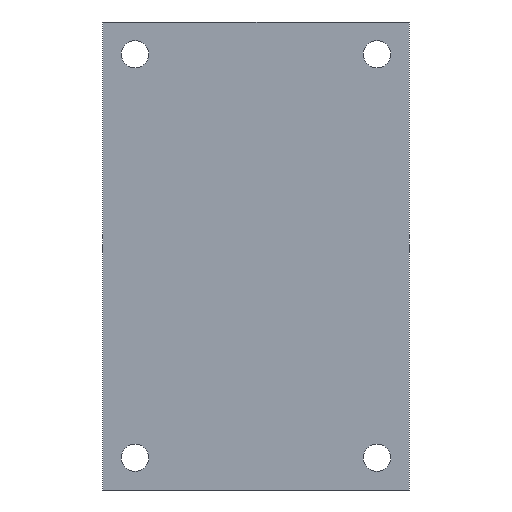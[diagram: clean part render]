
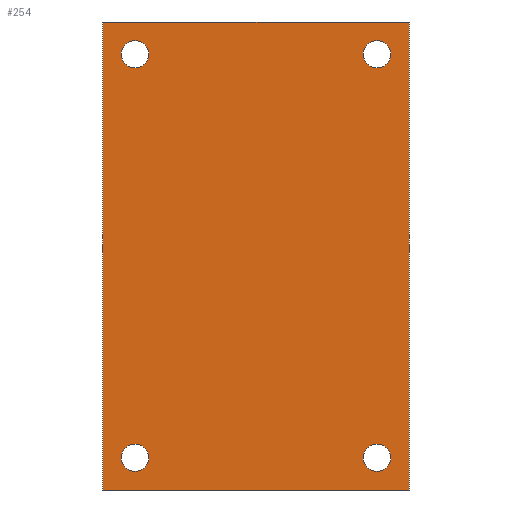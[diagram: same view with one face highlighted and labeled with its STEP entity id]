
A CAD part, front view. The second image highlights one B-rep face of the part: STEP entity #254.
In plain terms, the highlighted planar face has unit normal (0, -1, 0).
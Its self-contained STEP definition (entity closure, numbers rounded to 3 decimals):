
#19=FACE_BOUND('',#65,.T.);
#20=FACE_BOUND('',#66,.T.);
#21=FACE_BOUND('',#67,.T.);
#22=FACE_BOUND('',#68,.T.);
#28=PLANE('',#303);
#46=FACE_OUTER_BOUND('',#64,.T.);
#64=EDGE_LOOP('',(#229,#230,#231,#232));
#65=EDGE_LOOP('',(#233));
#66=EDGE_LOOP('',(#234));
#67=EDGE_LOOP('',(#235));
#68=EDGE_LOOP('',(#236));
#77=LINE('',#422,#97);
#81=LINE('',#430,#101);
#84=LINE('',#436,#104);
#87=LINE('',#441,#107);
#97=VECTOR('',#356,10.);
#101=VECTOR('',#362,10.);
#104=VECTOR('',#367,10.);
#107=VECTOR('',#372,10.);
#111=CIRCLE('',#282,1.7);
#114=CIRCLE('',#287,1.7);
#117=CIRCLE('',#292,1.7);
#120=CIRCLE('',#297,1.7);
#123=VERTEX_POINT('',#386);
#126=VERTEX_POINT('',#396);
#129=VERTEX_POINT('',#406);
#132=VERTEX_POINT('',#416);
#133=VERTEX_POINT('',#420);
#134=VERTEX_POINT('',#421);
#137=VERTEX_POINT('',#429);
#139=VERTEX_POINT('',#435);
#144=EDGE_CURVE('',#123,#123,#111,.T.);
#149=EDGE_CURVE('',#126,#126,#114,.T.);
#154=EDGE_CURVE('',#129,#129,#117,.T.);
#159=EDGE_CURVE('',#132,#132,#120,.T.);
#161=EDGE_CURVE('',#133,#134,#77,.T.);
#165=EDGE_CURVE('',#137,#133,#81,.T.);
#168=EDGE_CURVE('',#139,#137,#84,.T.);
#171=EDGE_CURVE('',#134,#139,#87,.T.);
#229=ORIENTED_EDGE('',*,*,#171,.F.);
#230=ORIENTED_EDGE('',*,*,#161,.F.);
#231=ORIENTED_EDGE('',*,*,#165,.F.);
#232=ORIENTED_EDGE('',*,*,#168,.F.);
#233=ORIENTED_EDGE('',*,*,#144,.T.);
#234=ORIENTED_EDGE('',*,*,#149,.T.);
#235=ORIENTED_EDGE('',*,*,#154,.T.);
#236=ORIENTED_EDGE('',*,*,#159,.T.);
#254=ADVANCED_FACE('',(#46,#19,#20,#21,#22),#28,.F.);
#282=AXIS2_PLACEMENT_3D('',#387,#315,#316);
#287=AXIS2_PLACEMENT_3D('',#397,#327,#328);
#292=AXIS2_PLACEMENT_3D('',#407,#339,#340);
#297=AXIS2_PLACEMENT_3D('',#417,#351,#352);
#303=AXIS2_PLACEMENT_3D('',#444,#376,#377);
#315=DIRECTION('center_axis',(0.,1.,0.));
#316=DIRECTION('ref_axis',(-1.,0.,0.));
#327=DIRECTION('center_axis',(0.,1.,0.));
#328=DIRECTION('ref_axis',(-1.,0.,0.));
#339=DIRECTION('center_axis',(0.,1.,0.));
#340=DIRECTION('ref_axis',(-1.,0.,0.));
#351=DIRECTION('center_axis',(0.,1.,0.));
#352=DIRECTION('ref_axis',(-1.,0.,0.));
#356=DIRECTION('',(1.,0.,0.));
#362=DIRECTION('',(0.,0.,1.));
#367=DIRECTION('',(-1.,0.,0.));
#372=DIRECTION('',(0.,0.,-1.));
#376=DIRECTION('center_axis',(0.,1.,0.));
#377=DIRECTION('ref_axis',(0.,0.,1.));
#386=CARTESIAN_POINT('',(-13.3,0.,-25.));
#387=CARTESIAN_POINT('Origin',(-15.,0.,-25.));
#396=CARTESIAN_POINT('',(16.7,0.,-25.));
#397=CARTESIAN_POINT('Origin',(15.,0.,-25.));
#406=CARTESIAN_POINT('',(16.7,0.,25.));
#407=CARTESIAN_POINT('Origin',(15.,0.,25.));
#416=CARTESIAN_POINT('',(-13.3,0.,25.));
#417=CARTESIAN_POINT('Origin',(-15.,0.,25.));
#420=CARTESIAN_POINT('',(-19.,0.,29.));
#421=CARTESIAN_POINT('',(19.,0.,29.));
#422=CARTESIAN_POINT('',(-19.,0.,29.));
#429=CARTESIAN_POINT('',(-19.,0.,-29.));
#430=CARTESIAN_POINT('',(-19.,0.,-29.));
#435=CARTESIAN_POINT('',(19.,0.,-29.));
#436=CARTESIAN_POINT('',(19.,0.,-29.));
#441=CARTESIAN_POINT('',(19.,0.,29.));
#444=CARTESIAN_POINT('Origin',(0.,0.,0.));
